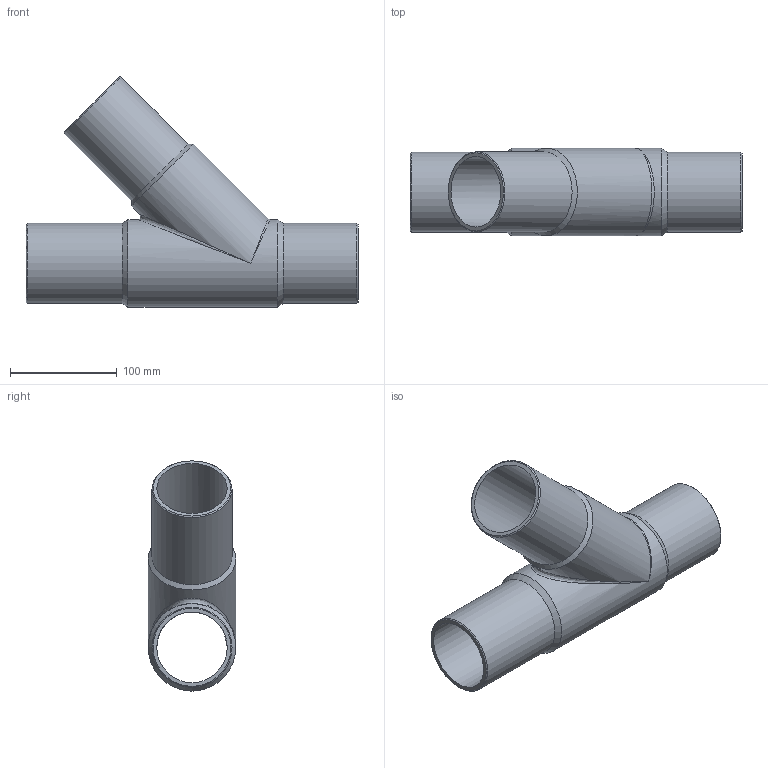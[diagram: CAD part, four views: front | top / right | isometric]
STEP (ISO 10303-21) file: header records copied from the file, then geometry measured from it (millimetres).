
FILE_DESCRIPTION(/* description */ ('Unknown'),/* implementation_level */ '2;1');
FILE_NAME(/* name */ 'T4P075B',/* time_stamp */ '2022-02-23T11:00:32+01:00',/* author */ ('Unknown'),/* organization */ ('Unknown'),/* preprocessor_version */ 'ST-DEVELOPER v18.1',/* originating_system */ 'Solid Edge',/* authorisation */ 'Unknown');
FILE_SCHEMA (('AUTOMOTIVE_DESIGN {1 0 10303 214 3 1 1}'));
Length unit declared in the file: millimetre
Products named in the file (1): T4P075B
Bounding box: 311 x 82 x 215.64 mm (x, y, z)
Volume: 623536.1 mm3; surface area: 208568.2 mm2
Topology: 1 solids, 1 shells, 18 faces, 47 edges, 26 vertices
Faces by surface type: cylinder 7, cone 6, plane 3, bspline 2
Full cylindrical faces by diameter (mm): 66 x2, 75 x3, 82 x2
Entity records: 516 total; most frequent: CARTESIAN_POINT 159, DIRECTION 76, ORIENTED_EDGE 42, AXIS2_PLACEMENT_3D 38, EDGE_LOOP 36, FACE_BOUND 36, EDGE_CURVE 21, VERTEX_POINT 19
